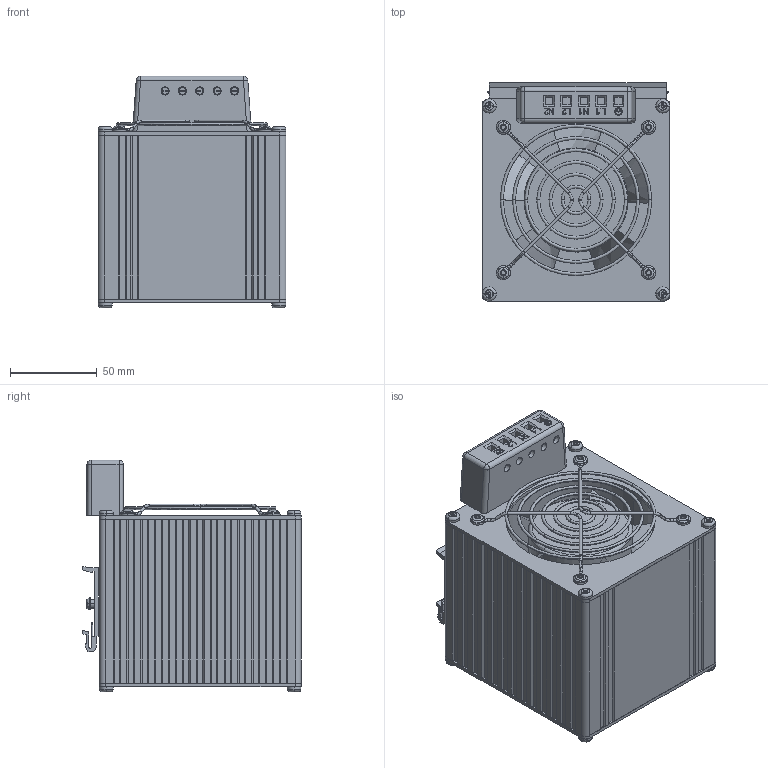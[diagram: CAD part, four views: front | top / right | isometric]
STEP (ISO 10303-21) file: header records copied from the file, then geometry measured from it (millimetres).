
FILE_DESCRIPTION (( 'STEP AP203' ), '1' );
FILE_NAME ('R5AHT750.STEP', '2026-06-01T21:49:40', ( '' ), ( '' ), 'SwSTEP 2.0', 'SolidWorks 2022', '' );
FILE_SCHEMA (( 'CONFIG_CONTROL_DESIGN' ));
Products named in the file (1): R5AHT750
Bounding box: 108.3 x 125.94 x 133.5 mm (x, y, z)
Volume: 1043477.1 mm3; surface area: 185965.1 mm2
Topology: 19 solids, 19 shells, 1208 faces, 3299 edges, 2158 vertices
Faces by surface type: plane 629, cylinder 301, torus 143, cone 80, bspline 51, sphere 4
Entity records: 42686 total; most frequent: CARTESIAN_POINT 11781, ORIENTED_EDGE 6590, DIRECTION 6263, EDGE_CURVE 3295, AXIS2_PLACEMENT_3D 2290, VERTEX_POINT 2158, LINE 1683, VECTOR 1683
